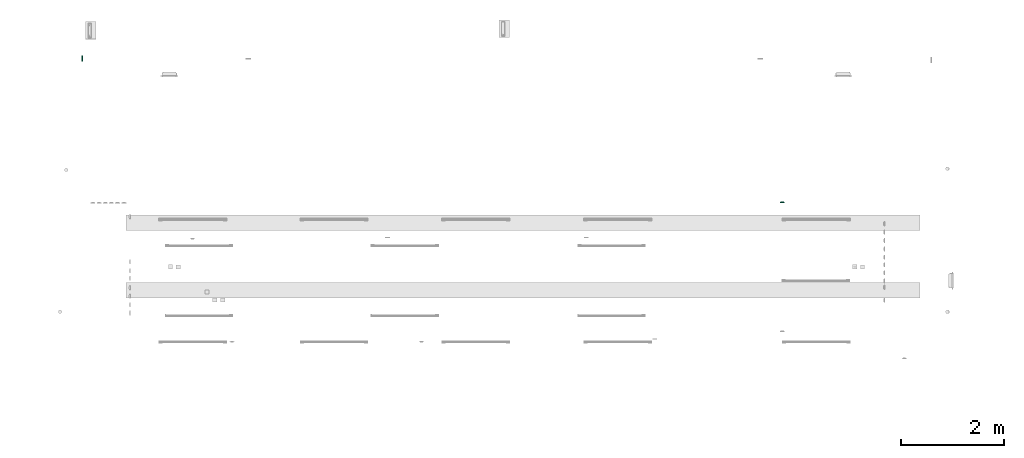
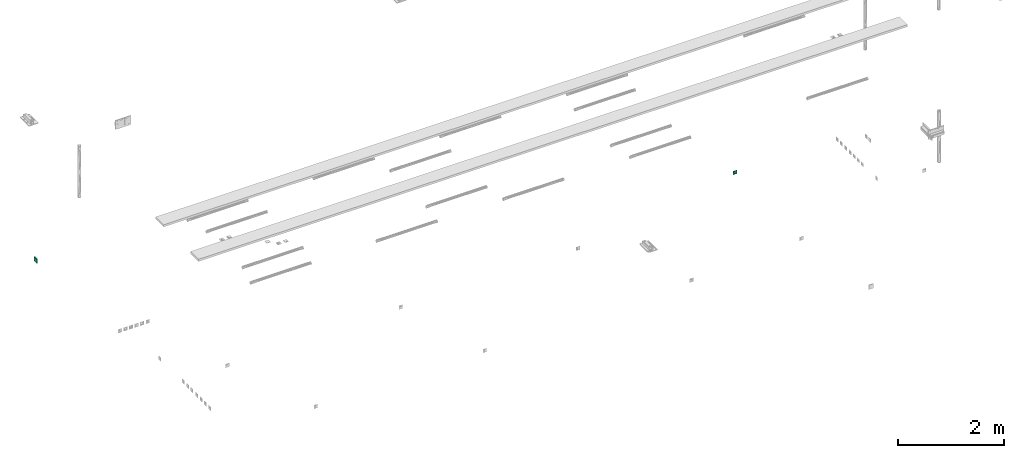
# One storey, part 26 of 146: 1 distribution control element, 1 flow terminal.
"""IFC2X3 building model written with IfcOpenShell, lengths in metres."""

from ifc_helpers import new_model, entity, si_unit, converted_unit, derived_unit, direction, frame, origin, origin_2d_with_axis, place, context, subcontext, project, spatial, rectangle, extrude, face_set, surface_model, source, transform, mapped, type_object, type_shapes, element, save


model = new_model("IFC2X3")

# Units and contexts
model_context = context("Model", 3, precision=1e-05, world=origin(), true_north=direction((6.12303176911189e-17, 1.0)))
body_context = subcontext(model_context, "Body", "Model", "MODEL_VIEW")
ifc_project = project(units=[si_unit("LENGTHUNIT", "METRE"), si_unit("AREAUNIT", "SQUARE_METRE"), si_unit("VOLUMEUNIT", "CUBIC_METRE"), converted_unit("PLANEANGLEUNIT", "DEGREE", entity("IfcRatioMeasure", 0.0174532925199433), si_unit("PLANEANGLEUNIT", "RADIAN"), dimensions=[0, 0, 0, 0, 0, 0, 0]), si_unit("MASSUNIT", "GRAM", prefix="KILO"), derived_unit("MASSDENSITYUNIT", [(si_unit("MASSUNIT", "GRAM", prefix="KILO"), 1), (si_unit("LENGTHUNIT", "METRE"), -3)]), si_unit("TIMEUNIT", "SECOND"), si_unit("FREQUENCYUNIT", "HERTZ"), si_unit("THERMODYNAMICTEMPERATUREUNIT", "DEGREE_CELSIUS"), derived_unit("THERMALTRANSMITTANCEUNIT", [(si_unit("MASSUNIT", "GRAM", prefix="KILO"), 1), (si_unit("THERMODYNAMICTEMPERATUREUNIT", "KELVIN"), -1), (si_unit("TIMEUNIT", "SECOND"), -3)]), derived_unit("VOLUMETRICFLOWRATEUNIT", [(si_unit("LENGTHUNIT", "METRE"), 3), (si_unit("TIMEUNIT", "SECOND"), -1)]), si_unit("ELECTRICCURRENTUNIT", "AMPERE"), si_unit("ELECTRICVOLTAGEUNIT", "VOLT"), si_unit("POWERUNIT", "WATT"), si_unit("FORCEUNIT", "NEWTON"), si_unit("ILLUMINANCEUNIT", "LUX"), si_unit("LUMINOUSFLUXUNIT", "LUMEN"), si_unit("LUMINOUSINTENSITYUNIT", "CANDELA"), derived_unit("USERDEFINED", [(si_unit("MASSUNIT", "GRAM", prefix="KILO"), -1), (si_unit("LENGTHUNIT", "METRE"), -2), (si_unit("TIMEUNIT", "SECOND"), 3), (si_unit("LUMINOUSFLUXUNIT", "LUMEN"), 1)]), derived_unit("LINEARVELOCITYUNIT", [(si_unit("LENGTHUNIT", "METRE"), 1), (si_unit("TIMEUNIT", "SECOND"), -1)]), si_unit("PRESSUREUNIT", "PASCAL"), derived_unit("USERDEFINED", [(si_unit("LENGTHUNIT", "METRE"), -2), (si_unit("MASSUNIT", "GRAM", prefix="KILO"), 1), (si_unit("TIMEUNIT", "SECOND"), -2)])], contexts=[model_context])

# Site, building, storey
site_placement = place(None, origin())
site = spatial("IfcSite", under=ifc_project, at=site_placement, Name="Default", CompositionType="ELEMENT")
building_placement = place(site_placement, origin())
building = spatial("IfcBuilding", under=site, at=building_placement, CompositionType="ELEMENT")
storey_placement = place(building_placement, origin())
storey = spatial("IfcBuildingStorey", under=building, at=storey_placement, Name="S01", CompositionType="ELEMENT", Elevation=0.0)

# Flow terminal
light_fixture_type = type_object("IfcLightFixtureType", Name="Attente", PredefinedType="NOTDEFINED")
shared_shape_1 = source(origin(), body_context, "Body", "SurfaceModel", [
    surface_model("IfcFaceBasedSurfaceModel", [(0.00225000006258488, 0.00949633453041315, 0.0127499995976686), (0.0, 0.00949633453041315, 0.0104999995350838), (0.0, 0.0101656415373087, 0.0115376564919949), (0.0, 0.0101656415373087, 0.0139623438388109), (0.0, 0.00984531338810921, 0.0144589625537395), (0.0, 0.0102778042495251, 0.0121178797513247), (0.0, 0.0102778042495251, 0.0133821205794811), (0.0, 0.010399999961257, 0.0127499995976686), (0.0, 0.00949633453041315, 0.0149999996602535), (-0.00225000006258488, 0.00949633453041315, 0.0127499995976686), (0.0, 0.00984531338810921, 0.0110410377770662), (0.0, 0.00949633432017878, 0.0127499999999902), (-0.0022499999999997, 0.0094963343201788, 0.0127499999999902), (-0.00217333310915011, 0.00949633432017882, 0.0121676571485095), (-0.0019485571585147, 0.00949633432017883, 0.0116249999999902), (-0.00159099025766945, 0.00949633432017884, 0.0111590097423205), (-0.00112499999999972, 0.00949633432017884, 0.0108014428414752), (-0.000582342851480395, 0.00949633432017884, 0.0105766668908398), (0.0, 0.00949633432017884, 0.0104999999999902), (0.000582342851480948, 0.00949633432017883, 0.0105766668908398), (0.00112500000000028, 0.00949633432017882, 0.0108014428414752), (0.00159099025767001, 0.00949633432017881, 0.0111590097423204), (0.00194855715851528, 0.00949633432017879, 0.0116249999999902), (0.0021733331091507, 0.00949633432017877, 0.0121676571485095), (0.0022500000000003, 0.00949633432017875, 0.0127499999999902), (0.00217333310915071, 0.00949633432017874, 0.0133323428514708), (0.0019485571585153, 0.00949633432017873, 0.0138749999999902), (0.00159099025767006, 0.00949633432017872, 0.0143409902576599), (0.00112500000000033, 0.00949633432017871, 0.0146985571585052), (0.000582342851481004, 0.00949633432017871, 0.0149233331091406), (0.0, 0.00949633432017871, 0.0149999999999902), (-0.000582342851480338, 0.00949633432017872, 0.0149233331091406), (-0.00112499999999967, 0.00949633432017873, 0.0146985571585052), (-0.00159099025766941, 0.00949633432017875, 0.0143409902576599), (-0.00194855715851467, 0.00949633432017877, 0.0138749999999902), (-0.00217333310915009, 0.00949633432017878, 0.0133323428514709), (-0.00224999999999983, -0.00360000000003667, 0.0127499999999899), (-0.00217333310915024, -0.00360000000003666, 0.0121676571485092), (-0.00194855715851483, -0.00360000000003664, 0.0116249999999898), (-0.00159099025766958, -0.00360000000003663, 0.0111590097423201), (-0.00112499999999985, -0.00360000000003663, 0.0108014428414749), (-0.000582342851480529, -0.00360000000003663, 0.0105766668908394), (0.0, -0.00360000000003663, 0.0104999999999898), (0.000582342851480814, -0.00360000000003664, 0.0105766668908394), (0.00112500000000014, -0.00360000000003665, 0.0108014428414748), (0.00159099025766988, -0.00360000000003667, 0.0111590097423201), (0.00194855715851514, -0.00360000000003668, 0.0116249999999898), (0.00217333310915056, -0.0036000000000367, 0.0121676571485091), (0.00225000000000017, -0.00360000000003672, 0.0127499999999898), (0.00217333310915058, -0.00360000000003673, 0.0133323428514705), (0.00194855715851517, -0.00360000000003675, 0.0138749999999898), (0.00159099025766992, -0.00360000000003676, 0.0143409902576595), (0.00112500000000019, -0.00360000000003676, 0.0146985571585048), (0.00058234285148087, -0.00360000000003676, 0.0149233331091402), (0.0, -0.00360000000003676, 0.0149999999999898), (-0.000582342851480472, -0.00360000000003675, 0.0149233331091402), (-0.0011249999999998, -0.00360000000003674, 0.0146985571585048), (-0.00159099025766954, -0.00360000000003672, 0.0143409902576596), (-0.0019485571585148, -0.00360000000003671, 0.0138749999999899), (-0.00217333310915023, -0.00360000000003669, 0.0133323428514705), (-0.0270000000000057, 0.0113999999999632, 0.0269999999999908), (0.0269999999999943, 0.0113999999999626, 0.0269999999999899), (0.0269999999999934, 0.0113999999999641, -0.0270000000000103), (-0.0270000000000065, 0.0113999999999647, -0.0270000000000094), (0.0199999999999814, 0.0113999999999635, 0.0), (0.0193185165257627, 0.0113999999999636, -0.00517638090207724), (0.0173205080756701, 0.0113999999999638, -0.0100000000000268), (0.0141421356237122, 0.0113999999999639, -0.0141421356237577), (0.00999999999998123, 0.011399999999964, -0.0173205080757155), (0.00517638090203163, 0.0113999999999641, -0.019318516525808), (0.0, 0.0113999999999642, -0.0200000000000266), (-0.00517638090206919, 0.0113999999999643, -0.0193185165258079), (-0.0100000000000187, 0.0113999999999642, -0.0173205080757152), (-0.0141421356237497, 0.0113999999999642, -0.0141421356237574), (-0.0173205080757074, 0.0113999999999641, -0.0100000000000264), (-0.0193185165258, 0.011399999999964, -0.0051763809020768), (-0.0200000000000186, 0.0113999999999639, 0.0), (-0.0193185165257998, 0.0113999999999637, 0.00517638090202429), (-0.0173205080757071, 0.0113999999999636, 0.00999999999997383), (-0.0141421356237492, 0.0113999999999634, 0.0141421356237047), (-0.0100000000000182, 0.0113999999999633, 0.0173205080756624), (-0.00517638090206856, 0.0113999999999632, 0.0193185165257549), (0.0, 0.0113999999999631, 0.0199999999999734), (0.00517638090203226, 0.0113999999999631, 0.0193185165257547), (0.0099999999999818, 0.0113999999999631, 0.017320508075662), (0.0141421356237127, 0.0113999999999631, 0.0141421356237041), (0.0173205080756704, 0.0113999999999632, 0.00999999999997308), (0.0193185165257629, 0.0113999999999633, 0.00517638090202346), (-0.0270000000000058, 0.00199999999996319, 0.0269999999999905), (-0.0270000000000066, 0.00199999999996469, -0.0270000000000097), (0.0269999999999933, 0.00199999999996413, -0.0270000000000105), (0.0269999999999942, 0.00199999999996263, 0.0269999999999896), (-0.0210000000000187, 0.00199999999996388, 0.0), (-0.0202844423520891, 0.00199999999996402, -0.00543519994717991), (-0.0181865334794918, 0.00199999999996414, -0.0105000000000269), (-0.0148492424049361, 0.00199999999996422, -0.0148492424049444), (-0.0105000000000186, 0.00199999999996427, -0.0181865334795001), (-0.00543519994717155, 0.00199999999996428, -0.0202844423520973), (0.0, 0.00199999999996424, -0.0210000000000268), (0.00543519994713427, 0.00199999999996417, -0.0202844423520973), (0.0104999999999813, 0.00199999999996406, -0.0181865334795), (0.0148492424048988, 0.00199999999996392, -0.0148492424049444), (0.0181865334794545, 0.00199999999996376, -0.0105000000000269), (0.0202844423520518, 0.0019999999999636, -0.00543519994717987), (0.0209999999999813, 0.00199999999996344, 0.0), (0.0202844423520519, 0.0019999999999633, 0.0054351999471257), (0.0181865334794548, 0.00199999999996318, 0.0104999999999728), (0.0148492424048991, 0.00199999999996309, 0.0148492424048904), (0.0104999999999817, 0.00199999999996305, 0.0181865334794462), (0.00543519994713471, 0.00199999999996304, 0.0202844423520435), (0.0, 0.00199999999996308, 0.0209999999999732), (-0.00543519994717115, 0.00199999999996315, 0.0202844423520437), (-0.0105000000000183, 0.00199999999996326, 0.0181865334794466), (-0.0148492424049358, 0.0019999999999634, 0.014849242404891), (-0.0181865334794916, 0.00199999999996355, 0.0104999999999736), (-0.020284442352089, 0.00199999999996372, 0.00543519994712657), (-0.0200000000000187, -0.00360000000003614, 0.0), (-0.0193185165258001, -0.003600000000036, -0.00517638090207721), (-0.0173205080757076, -0.00360000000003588, -0.0100000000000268), (-0.0141421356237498, -0.0036000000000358, -0.0141421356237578), (-0.0100000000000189, -0.00360000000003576, -0.0173205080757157), (-0.00517638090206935, -0.00360000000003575, -0.0193185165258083), (0.0, -0.00360000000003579, -0.020000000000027), (0.00517638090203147, -0.00360000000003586, -0.0193185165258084), (0.00999999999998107, -0.00360000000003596, -0.0173205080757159), (0.0141421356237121, -0.00360000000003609, -0.0141421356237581), (0.0173205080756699, -0.00360000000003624, -0.0100000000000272), (0.0193185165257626, -0.0036000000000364, -0.00517638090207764), (0.0199999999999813, -0.00360000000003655, 0.0), (0.0193185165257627, -0.00360000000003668, 0.00517638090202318), (0.0173205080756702, -0.0036000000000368, 0.00999999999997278), (0.0141421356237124, -0.00360000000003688, 0.0141421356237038), (0.00999999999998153, -0.00360000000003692, 0.0173205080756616), (0.00517638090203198, -0.00360000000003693, 0.0193185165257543), (0.0, -0.0036000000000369, 0.019999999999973), (-0.00517638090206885, -0.00360000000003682, 0.0193185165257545), (-0.0100000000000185, -0.00360000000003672, 0.0173205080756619), (-0.0141421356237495, -0.00360000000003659, 0.0141421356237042), (-0.0173205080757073, -0.00360000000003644, 0.00999999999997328), (-0.0193185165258, -0.00360000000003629, 0.00517638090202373), (0.0123499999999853, -0.00360000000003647, 0.0), (0.0122562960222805, -0.00360000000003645, -0.000711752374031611), (0.0119815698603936, -0.00360000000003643, -0.00137499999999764), (0.0115445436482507, -0.00360000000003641, -0.00194454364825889), (0.0109749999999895, -0.00360000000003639, -0.00238156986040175), (0.0103117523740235, -0.00360000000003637, -0.00265629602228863), (0.00959999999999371, -0.00360000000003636, -0.00274999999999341), (0.00888824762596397, -0.00360000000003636, -0.00265629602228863), (0.00822499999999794, -0.00360000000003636, -0.00238156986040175), (0.00765545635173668, -0.00360000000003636, -0.00194454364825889), (0.00721843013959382, -0.00360000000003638, -0.00137499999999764), (0.00694370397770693, -0.00360000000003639, -0.000711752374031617), (0.00685000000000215, -0.00360000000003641, 0.0), (0.00694370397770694, -0.00360000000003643, 0.000711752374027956), (0.00721843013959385, -0.00360000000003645, 0.00137499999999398), (0.00765545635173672, -0.00360000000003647, 0.00194454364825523), (0.00822499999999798, -0.00360000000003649, 0.00238156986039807), (0.00888824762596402, -0.00360000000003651, 0.00265629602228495), (0.00959999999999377, -0.00360000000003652, 0.0027499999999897), (0.0103117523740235, -0.00360000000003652, 0.00265629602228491), (0.0109749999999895, -0.00360000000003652, 0.00238156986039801), (0.0115445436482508, -0.00360000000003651, 0.00194454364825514), (0.0119815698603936, -0.0036000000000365, 0.00137499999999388), (0.0122562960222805, -0.00360000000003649, 0.000711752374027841), (-0.00685000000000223, -0.00360000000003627, 0.0), (-0.00694370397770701, -0.00360000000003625, -0.000711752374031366), (-0.0072184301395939, -0.00360000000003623, -0.00137499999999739), (-0.00765545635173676, -0.00360000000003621, -0.00194454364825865), (-0.00822499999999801, -0.00360000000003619, -0.0023815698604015), (-0.00888824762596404, -0.00360000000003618, -0.00265629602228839), (-0.00959999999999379, -0.00360000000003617, -0.00274999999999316), (-0.0103117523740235, -0.00360000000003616, -0.00265629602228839), (-0.0109749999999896, -0.00360000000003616, -0.00238156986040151), (-0.0115445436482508, -0.00360000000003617, -0.00194454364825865), (-0.0119815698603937, -0.00360000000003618, -0.0013749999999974), (-0.0122562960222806, -0.0036000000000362, -0.000711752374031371), (-0.0123499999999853, -0.00360000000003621, 0.0), (-0.0122562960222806, -0.00360000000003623, 0.000711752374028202), (-0.0119815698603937, -0.00360000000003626, 0.00137499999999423), (-0.0115445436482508, -0.00360000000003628, 0.00194454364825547), (-0.0109749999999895, -0.00360000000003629, 0.00238156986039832), (-0.0103117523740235, -0.00360000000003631, 0.00265629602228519), (-0.00959999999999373, -0.00360000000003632, 0.00274999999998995), (-0.00888824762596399, -0.00360000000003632, 0.00265629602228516), (-0.00822499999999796, -0.00360000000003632, 0.00238156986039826), (-0.00765545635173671, -0.00360000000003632, 0.00194454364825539), (-0.00721843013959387, -0.0036000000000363, 0.00137499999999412), (-0.00694370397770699, -0.00360000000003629, 0.000711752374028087), (-0.0210000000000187, -0.00460000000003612, 0.0), (-0.0202844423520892, -0.00460000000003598, -0.00543519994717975), (-0.018186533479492, -0.00460000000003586, -0.0105000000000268), (-0.0148492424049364, -0.00460000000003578, -0.0148492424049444), (-0.0105000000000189, -0.00460000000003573, -0.0181865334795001), (-0.00543519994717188, -0.00460000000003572, -0.0202844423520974), (0.0, -0.00460000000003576, -0.021000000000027), (0.00543519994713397, -0.00460000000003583, -0.0202844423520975), (0.0104999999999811, -0.00460000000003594, -0.0181865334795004), (0.0148492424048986, -0.00460000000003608, -0.0148492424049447), (0.0181865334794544, -0.00460000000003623, -0.0105000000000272), (0.0202844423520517, -0.0046000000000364, -0.0054351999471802), (0.0209999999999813, -0.00460000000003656, 0.0), (0.0202844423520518, -0.0046000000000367, 0.00543519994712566), (0.0181865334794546, -0.00460000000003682, 0.0104999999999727), (0.014849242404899, -0.00460000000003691, 0.0148492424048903), (0.0104999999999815, -0.00460000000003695, 0.0181865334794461), (0.0054351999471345, -0.00460000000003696, 0.0202844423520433), (0.0, -0.00460000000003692, 0.020999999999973), (-0.00543519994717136, -0.00460000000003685, 0.0202844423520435), (-0.0105000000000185, -0.00460000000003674, 0.0181865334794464), (-0.014849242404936, -0.0046000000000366, 0.0148492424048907), (-0.0181865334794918, -0.00460000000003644, 0.0104999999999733), (-0.0202844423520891, -0.00460000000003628, 0.00543519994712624), (0.00685000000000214, -0.00460000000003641, 0.0), (0.00694370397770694, -0.00460000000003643, 0.000711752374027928), (0.00721843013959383, -0.00460000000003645, 0.00137499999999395), (0.0076554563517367, -0.00460000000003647, 0.0019445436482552), (0.00822499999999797, -0.00460000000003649, 0.00238156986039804), (0.00888824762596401, -0.0046000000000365, 0.00265629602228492), (0.00959999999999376, -0.00460000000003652, 0.00274999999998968), (0.0103117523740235, -0.00460000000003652, 0.00265629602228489), (0.0109749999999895, -0.00460000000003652, 0.00238156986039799), (0.0115445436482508, -0.00460000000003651, 0.00194454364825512), (0.0119815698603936, -0.0046000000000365, 0.00137499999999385), (0.0122562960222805, -0.00460000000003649, 0.000711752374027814), (0.0123499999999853, -0.00460000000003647, 0.0), (0.0122562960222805, -0.00460000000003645, -0.00071175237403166), (0.0119815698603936, -0.00460000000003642, -0.00137499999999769), (0.0115445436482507, -0.0046000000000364, -0.00194454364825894), (0.0109749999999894, -0.00460000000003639, -0.00238156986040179), (0.0103117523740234, -0.00460000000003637, -0.00265629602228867), (0.00959999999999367, -0.00460000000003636, -0.00274999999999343), (0.00888824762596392, -0.00460000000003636, -0.00265629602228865), (0.00822499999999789, -0.00460000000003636, -0.00238156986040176), (0.00765545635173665, -0.00460000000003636, -0.00194454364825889), (0.00721843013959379, -0.00460000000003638, -0.00137499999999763), (0.00694370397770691, -0.00460000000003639, -0.0007117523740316), (-0.0123499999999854, -0.00460000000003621, 0.0), (-0.0122562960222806, -0.00460000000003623, 0.000711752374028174), (-0.0119815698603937, -0.00460000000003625, 0.0013749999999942), (-0.0115445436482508, -0.00460000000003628, 0.00194454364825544), (-0.0109749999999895, -0.00460000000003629, 0.00238156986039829), (-0.0103117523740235, -0.00460000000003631, 0.00265629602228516), (-0.00959999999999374, -0.00460000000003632, 0.00274999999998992), (-0.008888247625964, -0.00460000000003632, 0.00265629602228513), (-0.00822499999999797, -0.00460000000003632, 0.00238156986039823), (-0.00765545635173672, -0.00460000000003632, 0.00194454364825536), (-0.00721843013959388, -0.0046000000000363, 0.0013749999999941), (-0.006943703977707, -0.00460000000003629, 0.000711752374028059), (-0.00685000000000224, -0.00460000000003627, 0.0), (-0.00694370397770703, -0.00460000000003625, -0.000711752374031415), (-0.00721843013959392, -0.00460000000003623, -0.00137499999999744), (-0.00765545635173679, -0.00460000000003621, -0.00194454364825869), (-0.00822499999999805, -0.00460000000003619, -0.00238156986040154), (-0.00888824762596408, -0.00460000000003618, -0.00265629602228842), (-0.00959999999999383, -0.00460000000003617, -0.00274999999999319), (-0.0103117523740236, -0.00460000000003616, -0.00265629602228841), (-0.0109749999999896, -0.00460000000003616, -0.00238156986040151), (-0.0115445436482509, -0.00460000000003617, -0.00194454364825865), (-0.0119815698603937, -0.00460000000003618, -0.00137499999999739), (-0.0122562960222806, -0.00460000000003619, -0.000711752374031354), (-0.0403499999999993, 0.00659999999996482, 0.0403499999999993), (-0.0403500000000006, 0.00659999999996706, -0.0403500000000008), (0.0403499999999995, 0.00659999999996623, -0.0403500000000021), (0.0403500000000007, 0.00659999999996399, 0.040349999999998), (-0.0269999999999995, 0.00659999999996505, 0.026999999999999), (0.0270000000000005, 0.0065999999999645, 0.0269999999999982), (0.0269999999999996, 0.006599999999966, -0.0270000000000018), (-0.0270000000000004, 0.00659999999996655, -0.027000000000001), (-0.0269999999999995, 0.0103999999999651, 0.0269999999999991), (0.0270000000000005, 0.0103999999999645, 0.0269999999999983), (0.0269999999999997, 0.010399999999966, -0.0270000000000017), (-0.0270000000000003, 0.0103999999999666, -0.0270000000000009), (-0.0403499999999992, 0.00659999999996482, 0.0403499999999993), (-0.0403500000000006, 0.00659999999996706, -0.0403500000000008), (0.0403499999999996, 0.00659999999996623, -0.0403500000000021), (0.0403500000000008, 0.00659999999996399, 0.040349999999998), (0.0270000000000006, 0.0065999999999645, 0.0269999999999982), (0.0269999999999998, 0.006599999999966, -0.0270000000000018), (-0.0270000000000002, 0.00659999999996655, -0.027000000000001), (-0.0269999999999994, 0.00659999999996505, 0.026999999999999), (-0.0403499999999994, 0.0, 0.0403499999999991), (-0.0403500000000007, 0.0, -0.040350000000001), (0.0403499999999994, 0.0, -0.0403500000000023), (0.0403500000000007, 0.0, 0.0403499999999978), (-0.0269999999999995, 0.0, 0.0269999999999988), (0.0270000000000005, 0.0, 0.026999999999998), (0.0269999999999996, 0.0, -0.027000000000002), (-0.0270000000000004, 0.0, -0.0270000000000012)], [face_set([[[0, 1, 2]], [[3, 4, 2, 5]], [[6, 3, 5, 7]], [[2, 4, 0]], [[4, 8, 0]], [[3, 9, 8]], [[1, 9, 10]], [[2, 3, 6, 7]], [[3, 10, 9]], [[2, 10, 3]], [[11, 1, 0, 8]], [[11, 8, 9, 1]]]), face_set([[[12, 13, 14, 15, 16, 17, 18, 19, 20, 21, 22, 23, 24, 25, 26, 27, 28, 29, 30, 31, 32, 33, 34, 35]], [[36, 37, 38, 39, 40, 41, 42, 43, 44, 45, 46, 47, 48, 49, 50, 51, 52, 53, 54, 55, 56, 57, 58, 59]], [[48, 47, 23, 24]], [[47, 46, 22, 23]], [[45, 44, 20, 21]], [[46, 45, 21, 22]], [[44, 43, 19, 20]], [[18, 19, 43, 42]], [[42, 41, 17, 18]], [[41, 40, 16, 17]], [[39, 38, 14, 15]], [[40, 39, 15, 16]], [[38, 37, 13, 14]], [[12, 13, 37, 36]], [[36, 59, 35, 12]], [[59, 58, 34, 35]], [[57, 56, 32, 33]], [[58, 57, 33, 34]], [[56, 55, 31, 32]], [[30, 31, 55, 54]], [[54, 53, 29, 30]], [[53, 52, 28, 29]], [[51, 50, 26, 27]], [[52, 51, 27, 28]], [[50, 49, 25, 26]], [[24, 25, 49, 48]]]), face_set([[[60, 61, 62, 63], [64, 65, 66, 67, 68, 69, 70, 71, 72, 73, 74, 75, 76, 77, 78, 79, 80, 81, 82, 83, 84, 85, 86, 87]], [[88, 89, 90, 91], [92, 93, 94, 95, 96, 97, 98, 99, 100, 101, 102, 103, 104, 105, 106, 107, 108, 109, 110, 111, 112, 113, 114, 115]], [[61, 60, 88, 91]], [[62, 61, 91, 90]], [[63, 62, 90, 89]], [[60, 63, 89, 88]], [[116, 117, 118, 119, 120, 121, 122, 123, 124, 125, 126, 127, 128, 129, 130, 131, 132, 133, 134, 135, 136, 137, 138, 139], [140, 141, 142, 143, 144, 145, 146, 147, 148, 149, 150, 151, 152, 153, 154, 155, 156, 157, 158, 159, 160, 161, 162, 163], [164, 165, 166, 167, 168, 169, 170, 171, 172, 173, 174, 175, 176, 177, 178, 179, 180, 181, 182, 183, 184, 185, 186, 187]], [[64, 128, 127, 65]], [[65, 127, 126, 66]], [[67, 125, 124, 68]], [[66, 126, 125, 67]], [[68, 124, 123, 69]], [[122, 70, 69, 123]], [[70, 122, 121, 71]], [[71, 121, 120, 72]], [[73, 119, 118, 74]], [[72, 120, 119, 73]], [[74, 118, 117, 75]], [[116, 76, 75, 117]], [[76, 116, 139, 77]], [[77, 139, 138, 78]], [[79, 137, 136, 80]], [[78, 138, 137, 79]], [[80, 136, 135, 81]], [[134, 82, 81, 135]], [[82, 134, 133, 83]], [[83, 133, 132, 84]], [[84, 132, 131, 85]], [[85, 131, 130, 86]], [[130, 129, 87, 86]], [[64, 87, 129, 128]], [[188, 189, 190, 191, 192, 193, 194, 195, 196, 197, 198, 199, 200, 201, 202, 203, 204, 205, 206, 207, 208, 209, 210, 211], [212, 213, 214, 215, 216, 217, 218, 219, 220, 221, 222, 223, 224, 225, 226, 227, 228, 229, 230, 231, 232, 233, 234, 235], [236, 237, 238, 239, 240, 241, 242, 243, 244, 245, 246, 247, 248, 249, 250, 251, 252, 253, 254, 255, 256, 257, 258, 259]], [[200, 199, 103, 104]], [[199, 198, 102, 103]], [[197, 196, 100, 101]], [[198, 197, 101, 102]], [[196, 195, 99, 100]], [[98, 99, 195, 194]], [[194, 193, 97, 98]], [[193, 192, 96, 97]], [[191, 190, 94, 95]], [[192, 191, 95, 96]], [[190, 189, 93, 94]], [[92, 93, 189, 188]], [[188, 211, 115, 92]], [[211, 210, 114, 115]], [[209, 208, 112, 113]], [[210, 209, 113, 114]], [[208, 207, 111, 112]], [[110, 111, 207, 206]], [[206, 205, 109, 110]], [[205, 204, 108, 109]], [[203, 202, 106, 107]], [[204, 203, 107, 108]], [[202, 201, 105, 106]], [[104, 105, 201, 200]], [[141, 225, 226, 142]], [[140, 224, 225, 141]], [[144, 228, 229, 145]], [[143, 227, 228, 144]], [[142, 226, 227, 143]], [[230, 146, 145, 229]], [[149, 233, 232, 148]], [[148, 232, 231, 147]], [[152, 212, 235, 151]], [[151, 235, 234, 150]], [[150, 234, 233, 149]], [[146, 230, 231, 147]], [[154, 214, 213, 153]], [[153, 213, 212, 152]], [[157, 217, 216, 156]], [[156, 216, 215, 155]], [[155, 215, 214, 154]], [[218, 158, 157, 217]], [[160, 220, 221, 161]], [[159, 219, 220, 160]], [[163, 223, 224, 140]], [[162, 222, 223, 163]], [[161, 221, 222, 162]], [[158, 218, 219, 159]], [[166, 250, 249, 165]], [[165, 249, 248, 164]], [[169, 253, 252, 168]], [[168, 252, 251, 167]], [[167, 251, 250, 166]], [[254, 170, 169, 253]], [[172, 256, 257, 173]], [[171, 255, 256, 172]], [[175, 259, 236, 176]], [[174, 258, 259, 175]], [[173, 257, 258, 174]], [[170, 254, 255, 171]], [[177, 237, 238, 178]], [[176, 236, 237, 177]], [[180, 240, 241, 181]], [[179, 239, 240, 180]], [[178, 238, 239, 179]], [[242, 182, 181, 241]], [[185, 245, 244, 184]], [[184, 244, 243, 183]], [[164, 248, 247, 187]], [[187, 247, 246, 186]], [[186, 246, 245, 185]], [[182, 242, 243, 183]]]), face_set([[[260, 261, 262, 263], [264, 265, 266, 267]], [[260, 268, 269, 263]], [[263, 269, 270, 262]], [[262, 270, 271, 261]], [[261, 271, 268, 260]], [[264, 265, 269, 268]], [[265, 266, 270, 269]], [[266, 267, 271, 270]], [[268, 271, 267, 264]]]), face_set([[[272, 273, 274, 275], [276, 277, 278, 279]], [[280, 281, 282, 283], [284, 285, 286, 287]], [[275, 272, 280, 283]], [[274, 275, 283, 282]], [[273, 274, 282, 281]], [[272, 273, 281, 280]], [[284, 285, 276, 279]], [[285, 286, 277, 276]], [[286, 287, 278, 277]], [[279, 278, 287, 284]]])]),
])
type_shapes(light_fixture_type, [shared_shape_1])
flow_terminal_placement = place(storey_placement, frame((38.8248333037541, -187.695387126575, 0.0)))
element("IfcFlowTerminal", 1, at=flow_terminal_placement, inside=storey, type_object=light_fixture_type, Name="INT_Attente électrique:Attente", ObjectType="INT_Attente électrique:Attente", context=body_context, shape_type="MappedRepresentation", body=[
    mapped(shared_shape_1, transform((0.0, 0.0, 0.0), scale=1.0)),
])

# Distribution control element
alarm_type = type_object("IfcAlarmType", Name="Incendie_Déclenheur manuel", PredefinedType="NOTDEFINED")
shared_shape_2 = source(origin(), body_context, "Body", "SweptSolid", [
    extrude(rectangle(XDim=0.1, YDim=0.1, at=origin_2d_with_axis()), frame((0.0, 0.0, 0.0), z_axis=(0.0, 0.0, 1.0), x_axis=(0.0, 1.0, 0.0)), (0.0, 0.0, 1.0), 0.02),
])
type_shapes(alarm_type, [shared_shape_2])
distribution_control_element_placement = place(building_placement, frame((25.2797436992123, -184.909404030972, 1.04999999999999), z_axis=(-1.0, 0.0, 0.0), x_axis=(0.0, 1.0, 0.0)))
element("IfcDistributionControlElement", 2, at=distribution_control_element_placement, inside=storey, type_object=alarm_type, Name="INT_Déclenheur manuel:Incendie_Déclenheur manuel", ObjectType="INT_Déclenheur manuel:Incendie_Déclenheur manuel", context=body_context, shape_type="MappedRepresentation", body=[
    mapped(shared_shape_2, transform((0.0, 0.0, 0.0), scale=1.0)),
])

save(model, "model.ifc")
